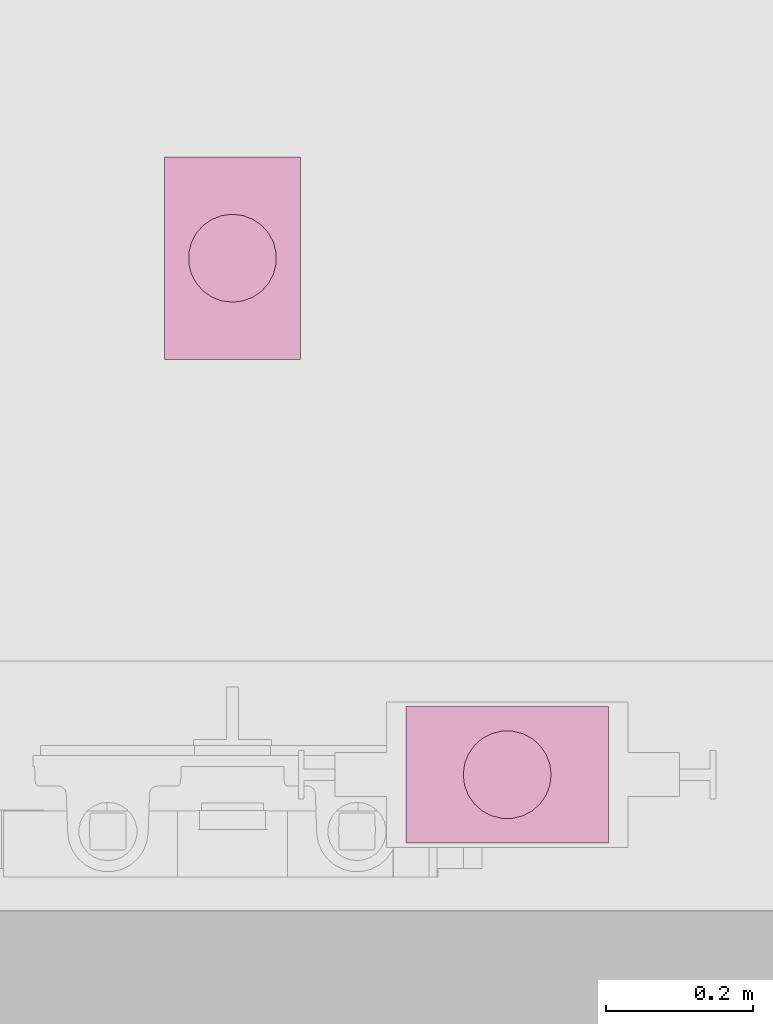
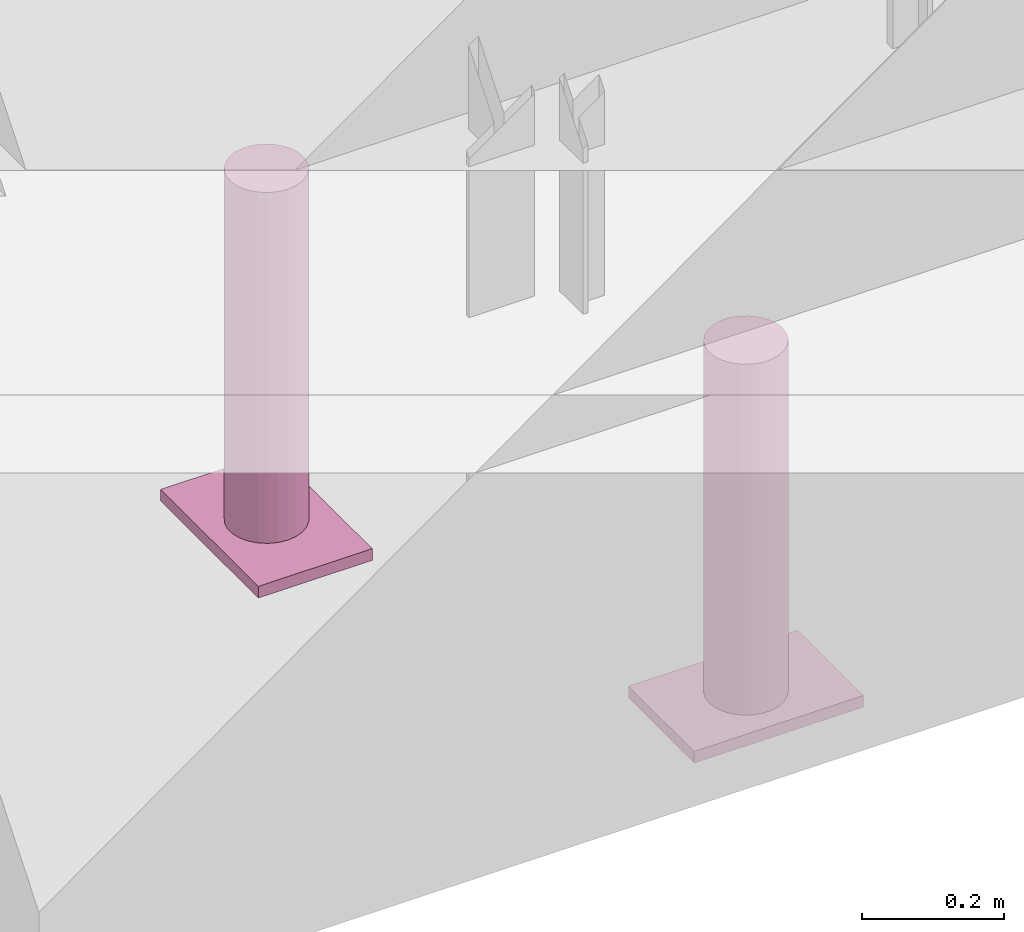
# One storey, part 237 of 240: 2 transport elements.
"""IFC2X3 building model written with IfcOpenShell, lengths in centimetres."""

from ifc_helpers import new_model, entity, si_unit, converted_unit, derived_unit, direction, frame, frame_2d, origin, origin_2d_with_axis, place, context, subcontext, project, spatial, rectangle, circle, extrude, source, transform, mapped, type_object, type_shapes, element, save


model = new_model("IFC2X3")

# Units and contexts
model_context = context("Model", 3, precision=0.001, world=origin(), true_north=direction((6.12303176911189e-17, 1.0)))
body_context = subcontext(model_context, "Body", "Model", "MODEL_VIEW")
ifc_project = project(units=[si_unit("LENGTHUNIT", "METRE", prefix="CENTI"), si_unit("AREAUNIT", "SQUARE_METRE"), si_unit("VOLUMEUNIT", "CUBIC_METRE"), converted_unit("PLANEANGLEUNIT", "DEGREE", entity("IfcRatioMeasure", 0.0174532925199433), si_unit("PLANEANGLEUNIT", "RADIAN"), dimensions=[0, 0, 0, 0, 0, 0, 0]), si_unit("MASSUNIT", "GRAM", prefix="KILO"), derived_unit("MASSDENSITYUNIT", [(si_unit("MASSUNIT", "GRAM", prefix="KILO"), 1), (si_unit("LENGTHUNIT", "METRE"), -3)]), si_unit("TIMEUNIT", "SECOND"), si_unit("FREQUENCYUNIT", "HERTZ"), si_unit("THERMODYNAMICTEMPERATUREUNIT", "DEGREE_CELSIUS"), derived_unit("THERMALTRANSMITTANCEUNIT", [(si_unit("MASSUNIT", "GRAM", prefix="KILO"), 1), (si_unit("THERMODYNAMICTEMPERATUREUNIT", "KELVIN"), -1), (si_unit("TIMEUNIT", "SECOND"), -3)]), derived_unit("VOLUMETRICFLOWRATEUNIT", [(si_unit("LENGTHUNIT", "METRE"), 3), (si_unit("TIMEUNIT", "SECOND"), -1)]), si_unit("ELECTRICCURRENTUNIT", "AMPERE"), si_unit("ELECTRICVOLTAGEUNIT", "VOLT"), si_unit("POWERUNIT", "WATT"), si_unit("FORCEUNIT", "NEWTON", prefix="KILO"), si_unit("ILLUMINANCEUNIT", "LUX"), si_unit("LUMINOUSFLUXUNIT", "LUMEN"), si_unit("LUMINOUSINTENSITYUNIT", "CANDELA"), derived_unit("USERDEFINED", [(si_unit("MASSUNIT", "GRAM", prefix="KILO"), -1), (si_unit("LENGTHUNIT", "METRE"), -2), (si_unit("TIMEUNIT", "SECOND"), 3), (si_unit("LUMINOUSFLUXUNIT", "LUMEN"), 1)]), derived_unit("LINEARVELOCITYUNIT", [(si_unit("LENGTHUNIT", "METRE"), 1), (si_unit("TIMEUNIT", "SECOND"), -1)]), si_unit("PRESSUREUNIT", "PASCAL"), derived_unit("USERDEFINED", [(si_unit("LENGTHUNIT", "METRE"), -2), (si_unit("MASSUNIT", "GRAM", prefix="KILO"), 1), (si_unit("TIMEUNIT", "SECOND"), -2)])], contexts=[model_context])

# Site, building, storey
site_placement = place(None, frame((-2781.94577612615, 7442.24238424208, 0.0)))
site = spatial("IfcSite", under=ifc_project, at=site_placement, Name="Default", CompositionType="ELEMENT")
building_placement = place(site_placement, origin())
building = spatial("IfcBuilding", under=site, at=building_placement, CompositionType="ELEMENT")
storey_placement = place(building_placement, origin())
storey = spatial("IfcBuildingStorey", under=building, at=storey_placement, Name="N00 - COO", CompositionType="ELEMENT", Elevation=0.0)

# Transport elements
transport_element_type_1 = type_object("IfcTransportElementType", Name="KONE_Buffer_Design_OIL", PredefinedType="NOTDEFINED")
shared_shape_1 = source(origin(), body_context, "Body", "SweptSolid", [
    extrude(circle(Radius=6.0, at=frame_2d((0.0, -2.70716782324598e-14), x_axis=(1.0, 0.0))), frame((12.9368600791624, -2.00915440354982, 2.0), z_axis=(0.0, 0.0, 1.0), x_axis=(-1.0, 0.0, 0.0)), (0.0, 0.0, 1.0), 60.5),
    extrude(rectangle(XDim=18.5999999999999, YDim=27.5999999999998, at=origin_2d_with_axis()), frame((12.9368600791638, -2.00915440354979, 0.0), z_axis=(0.0, 0.0, 1.0), x_axis=(0.0, 1.0, 0.0)), (0.0, 0.0, 1.0), 2.0),
])
type_shapes(transport_element_type_1, [shared_shape_1])
transport_element_1_placement = place(storey_placement, frame((-3561.50903408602, -1193.94363044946, -105.0), z_axis=(0.0, 0.0, 1.0), x_axis=(0.0, 1.0, 0.0)))
element("IfcTransportElement", 1, at=transport_element_1_placement, inside=storey, type_object=transport_element_type_1, Name="KONE_Buffer_Design_OIL_CAR:KONE_Buffer_Design_OIL", ObjectType="KONE_Buffer_Design_OIL_CAR:KONE_Buffer_Design_OIL", CapacityByNumber=0.0, CapacityByWeight=0.0, OperationType="ELEVATOR", context=body_context, shape_type="MappedRepresentation", body=[
    mapped(shared_shape_1, transform((0.0, 0.0, 0.0), scale=1.0)),
])
transport_element_type_2 = type_object("IfcTransportElementType", Name="KONE_Buffer_Design_OIL", PredefinedType="NOTDEFINED")
shared_shape_2 = source(origin(), body_context, "Body", "SweptSolid", [
    extrude(circle(Radius=6.0, at=frame_2d((0.0, -2.70716782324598e-14), x_axis=(1.0, 0.0))), frame((12.9368600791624, -2.00915440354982, 2.0), z_axis=(0.0, 0.0, 1.0), x_axis=(-1.0, 0.0, 0.0)), (0.0, 0.0, 1.0), 60.5),
    extrude(rectangle(XDim=18.5999999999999, YDim=27.5999999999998, at=origin_2d_with_axis()), frame((12.9368600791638, -2.00915440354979, 0.0), z_axis=(0.0, 0.0, 1.0), x_axis=(0.0, 1.0, 0.0)), (0.0, 0.0, 1.0), 2.0),
])
type_shapes(transport_element_type_2, [shared_shape_2])
transport_element_2_placement = place(storey_placement, frame((-3534.93673976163, -1249.49761596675, -105.0)))
element("IfcTransportElement", 2, at=transport_element_2_placement, inside=storey, type_object=transport_element_type_2, Name="KONE_Buffer_Design_OIL_CWT:KONE_Buffer_Design_OIL", ObjectType="KONE_Buffer_Design_OIL_CWT:KONE_Buffer_Design_OIL", CapacityByNumber=0.0, CapacityByWeight=0.0, OperationType="ELEVATOR", context=body_context, shape_type="MappedRepresentation", body=[
    mapped(shared_shape_2, transform((0.0, 0.0, 0.0), scale=1.0)),
])

save(model, "model.ifc")
